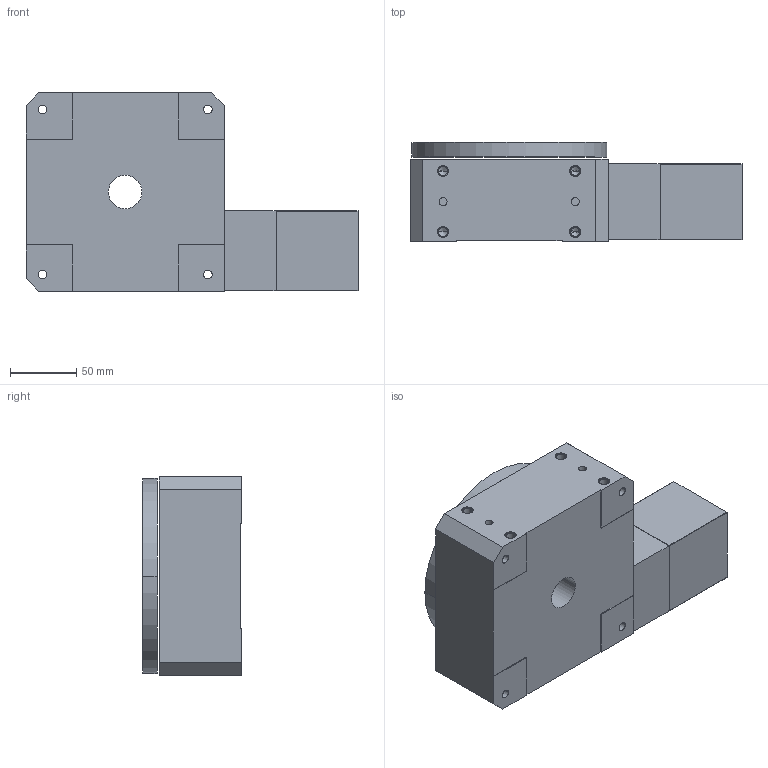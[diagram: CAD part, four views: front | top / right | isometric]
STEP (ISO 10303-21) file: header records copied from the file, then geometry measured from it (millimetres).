
FILE_DESCRIPTION((''),'2;1');
FILE_NAME('R150M7M23E0_ASM','2009-07-02T',('FK20128'),(''),'PRO/ENGINEER BY PARAMETRIC TECHNOLOGY CORPORATION, 2006200','PRO/ENGINEER BY PARAMETRIC TECHNOLOGY CORPORATION, 2006200','');
FILE_SCHEMA(('CONFIG_CONTROL_DESIGN'));
Length unit declared in the file: millimetre
Products named in the file (3): R150M; R150M-M23; R150M7M23E0_ASM
Assembly tree (2 placements, depth 2):
  R150M7M23E0_ASM
    R150M
    R150M-M23
Bounding box: 251.12 x 74.83 x 150 mm (x, y, z)
Volume: 1798899.6 mm3; surface area: 175440 mm2
Topology: 3 solids, 19 shells, 223 faces, 543 edges, 356 vertices
Faces by surface type: cylinder 126, plane 71, cone 26
Entity records: 6698 total; most frequent: DIRECTION 1281, CARTESIAN_POINT 1113, ORIENTED_EDGE 990, EDGE_CURVE 527, AXIS2_PLACEMENT_3D 524, VERTEX_POINT 356, EDGE_LOOP 299, CIRCLE 294
